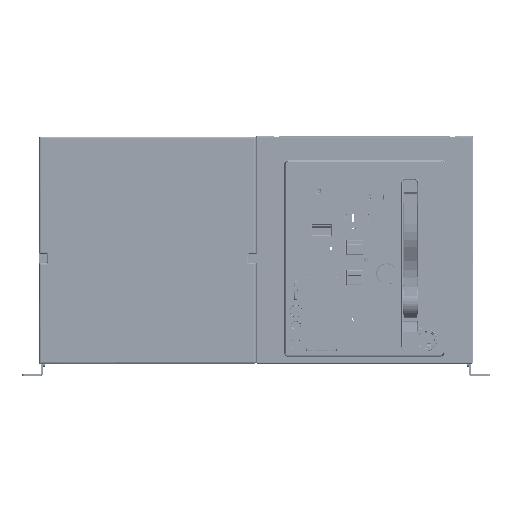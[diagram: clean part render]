
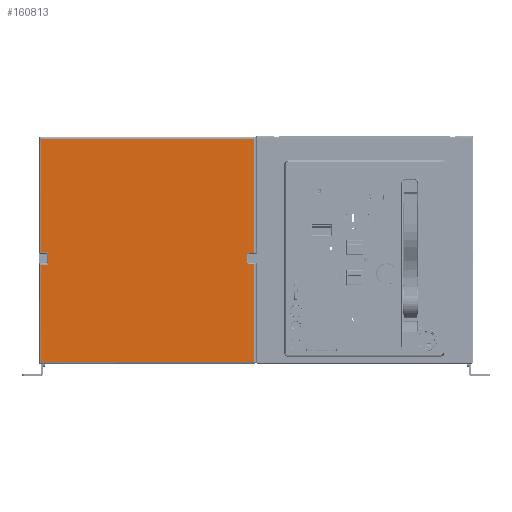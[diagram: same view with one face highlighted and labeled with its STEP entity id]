
A CAD part, top view. The second image highlights one B-rep face of the part: STEP entity #160813.
In plain terms, the highlighted planar face has unit normal (0, 0, 1) as drawn and (0, 0, -1) by its records, which use the part's own axes.
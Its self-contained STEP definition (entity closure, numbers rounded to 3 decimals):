
#153378=CARTESIAN_POINT('',(180.098,-3.3,-49.));
#153387=DIRECTION('',(0.,-1.,0.));
#153388=VECTOR('',#153387,191.959);
#153389=CARTESIAN_POINT('',(180.098,188.659,-49.));
#153390=LINE('',#153389,#153388);
#153412=DIRECTION('',(-1.,0.,0.));
#153413=VECTOR('',#153412,12.598);
#153414=CARTESIAN_POINT('',(180.098,-3.3,-49.));
#153415=LINE('',#153414,#153413);
#153478=DIRECTION('',(1.,0.,0.));
#153479=VECTOR('',#153478,12.598);
#153480=CARTESIAN_POINT('',(167.5,-24.7,-49.));
#153481=LINE('',#153480,#153479);
#153491=CARTESIAN_POINT('',(-172.5,-8.3,-49.));
#153492=DIRECTION('',(0.,0.,-1.));
#153493=DIRECTION('',(0.,1.,0.));
#153494=AXIS2_PLACEMENT_3D('',#153491,#153492,#153493);
#153496=CARTESIAN_POINT('',(-172.5,-19.7,-49.));
#153497=DIRECTION('',(0.,0.,-1.));
#153498=DIRECTION('',(1.,0.,0.));
#153499=AXIS2_PLACEMENT_3D('',#153496,#153497,#153498);
#153501=DIRECTION('',(-1.,0.,0.));
#153502=VECTOR('',#153501,7.598);
#153503=CARTESIAN_POINT('',(-172.5,-4.3,-49.));
#153504=LINE('',#153503,#153502);
#153524=DIRECTION('',(0.,1.,0.));
#153525=VECTOR('',#153524,192.959);
#153526=CARTESIAN_POINT('',(-180.098,-4.3,-49.));
#153527=LINE('',#153526,#153525);
#153551=DIRECTION('',(1.,0.,0.));
#153552=VECTOR('',#153551,360.197);
#153553=CARTESIAN_POINT('',(-180.098,188.659,-49.));
#153554=LINE('',#153553,#153552);
#153614=DIRECTION('',(0.,1.,0.));
#153615=VECTOR('',#153614,165.098);
#153616=CARTESIAN_POINT('',(-180.098,-188.798,-49.));
#153617=LINE('',#153616,#153615);
#153658=DIRECTION('',(-1.,0.,0.));
#153659=VECTOR('',#153658,360.197);
#153660=CARTESIAN_POINT('',(180.098,-188.798,-49.));
#153661=LINE('',#153660,#153659);
#153670=DIRECTION('',(0.,-1.,0.));
#153671=VECTOR('',#153670,164.098);
#153672=CARTESIAN_POINT('',(180.098,-24.7,-49.));
#153673=LINE('',#153672,#153671);
#153724=DIRECTION('',(1.,0.,0.));
#153725=VECTOR('',#153724,7.598);
#153726=CARTESIAN_POINT('',(-180.098,-23.7,-49.));
#153727=LINE('',#153726,#153725);
#153768=DIRECTION('',(0.,1.,0.));
#153769=VECTOR('',#153768,11.4);
#153770=CARTESIAN_POINT('',(-168.5,-19.7,-49.));
#153771=LINE('',#153770,#153769);
#153820=DIRECTION('',(0.,-1.,0.));
#153821=VECTOR('',#153820,21.4);
#153822=CARTESIAN_POINT('',(167.5,-3.3,-49.));
#153823=LINE('',#153822,#153821);
#157581=CARTESIAN_POINT('',(-180.098,188.659,-49.));
#157582=VERTEX_POINT('',#157581);
#157583=CARTESIAN_POINT('',(180.098,188.659,-49.));
#157584=VERTEX_POINT('',#157583);
#157587=VERTEX_POINT('',#153378);
#157592=CARTESIAN_POINT('',(167.5,-3.3,-49.));
#157593=VERTEX_POINT('',#157592);
#157596=CARTESIAN_POINT('',(167.5,-24.7,-49.));
#157597=VERTEX_POINT('',#157596);
#157599=CARTESIAN_POINT('',(-172.5,-4.3,-49.));
#157600=CARTESIAN_POINT('',(-180.098,-4.3,-49.));
#157601=VERTEX_POINT('',#157599);
#157602=VERTEX_POINT('',#157600);
#157603=CARTESIAN_POINT('',(-168.5,-8.3,-49.));
#157604=VERTEX_POINT('',#157603);
#157605=CARTESIAN_POINT('',(-168.5,-19.7,-49.));
#157606=VERTEX_POINT('',#157605);
#157607=CARTESIAN_POINT('',(-172.5,-23.7,-49.));
#157608=VERTEX_POINT('',#157607);
#157609=CARTESIAN_POINT('',(-180.098,-23.7,-49.));
#157610=VERTEX_POINT('',#157609);
#157611=CARTESIAN_POINT('',(-180.098,-188.798,-49.));
#157612=VERTEX_POINT('',#157611);
#157613=CARTESIAN_POINT('',(180.098,-188.798,-49.));
#157614=VERTEX_POINT('',#157613);
#157615=CARTESIAN_POINT('',(180.098,-24.7,-49.));
#157616=VERTEX_POINT('',#157615);
#160781=CARTESIAN_POINT('',(0.,0.,-49.));
#160782=DIRECTION('',(0.,0.,1.));
#160783=DIRECTION('',(1.,0.,0.));
#160784=AXIS2_PLACEMENT_3D('',#160781,#160782,#160783);
#160785=PLANE('',#160784);
#160787=ORIENTED_EDGE('',*,*,#160786,.F.);
#160789=ORIENTED_EDGE('',*,*,#160788,.T.);
#160791=ORIENTED_EDGE('',*,*,#160790,.F.);
#160793=ORIENTED_EDGE('',*,*,#160792,.T.);
#160795=ORIENTED_EDGE('',*,*,#160794,.F.);
#160797=ORIENTED_EDGE('',*,*,#160796,.F.);
#160799=ORIENTED_EDGE('',*,*,#160798,.F.);
#160801=ORIENTED_EDGE('',*,*,#160800,.F.);
#160802=ORIENTED_EDGE('',*,*,#160771,.F.);
#160804=ORIENTED_EDGE('',*,*,#160803,.F.);
#160805=ORIENTED_EDGE('',*,*,#160687,.F.);
#160806=ORIENTED_EDGE('',*,*,#160597,.F.);
#160808=ORIENTED_EDGE('',*,*,#160807,.F.);
#160810=ORIENTED_EDGE('',*,*,#160809,.F.);
#160811=EDGE_LOOP('',(#160787,#160789,#160791,#160793,#160795,#160797,#160799,
#160801,#160802,#160804,#160805,#160806,#160808,#160810));
#160812=FACE_OUTER_BOUND('',#160811,.F.);
#160813=ADVANCED_FACE('',(#160812),#160785,.F.);
#153495=CIRCLE('',#153494,4.);
#153500=CIRCLE('',#153499,4.);
#160597=EDGE_CURVE('',#157584,#157587,#153390,.T.);
#160687=EDGE_CURVE('',#157587,#157593,#153415,.T.);
#160771=EDGE_CURVE('',#157597,#157616,#153481,.T.);
#160786=EDGE_CURVE('',#157601,#157602,#153504,.T.);
#160788=EDGE_CURVE('',#157601,#157604,#153495,.T.);
#160790=EDGE_CURVE('',#157606,#157604,#153771,.T.);
#160792=EDGE_CURVE('',#157606,#157608,#153500,.T.);
#160794=EDGE_CURVE('',#157610,#157608,#153727,.T.);
#160796=EDGE_CURVE('',#157612,#157610,#153617,.T.);
#160798=EDGE_CURVE('',#157614,#157612,#153661,.T.);
#160800=EDGE_CURVE('',#157616,#157614,#153673,.T.);
#160803=EDGE_CURVE('',#157593,#157597,#153823,.T.);
#160807=EDGE_CURVE('',#157582,#157584,#153554,.T.);
#160809=EDGE_CURVE('',#157602,#157582,#153527,.T.);
